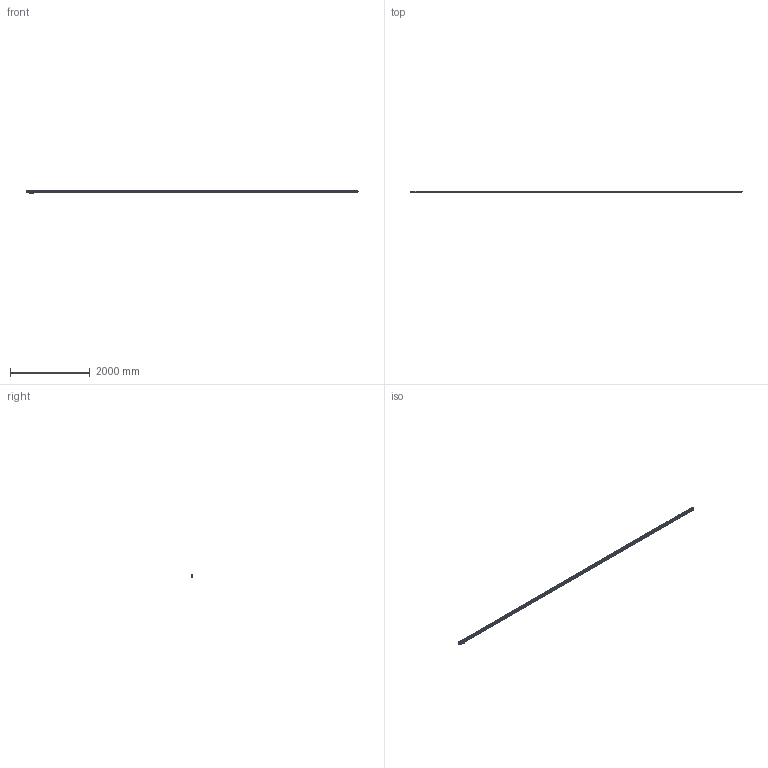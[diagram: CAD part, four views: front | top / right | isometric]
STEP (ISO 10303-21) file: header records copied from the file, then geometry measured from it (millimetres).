
FILE_DESCRIPTION(('Creo Elements/Direct Modeling STEP Export'),'2;1');
FILE_NAME('Li-80.stp','2017-01-11T11:55:37',(''),(''),'Creo Elements/Direct Modeling STEP processor for AP214 (Solid Model)','Creo Elements/Direct Modeling 18.1H 24-Oct-2015 (C) Parametric Technology GmbH','');
FILE_SCHEMA(('AUTOMOTIVE_DESIGN { 1 0 10303 214 1 1 1 1 }'));
Length unit declared in the file: millimetre
Products named in the file (8): CABEZA.1; CABEZA; Li-80_PERFIL; TAPA_DERECHA; TAPA_IZQUIERDA
Assembly tree (4 placements, depth 2):
  CABEZA
    CABEZA.1
  Li-80_PERFIL
    Li-80_PERFIL
  TAPA_DERECHA
    TAPA_DERECHA
  TAPA_IZQUIERDA
    TAPA_IZQUIERDA
Bounding box: 8341.61 x 50 x 86.45 mm (x, y, z)
Volume: 21219114.6 mm3; surface area: 2453022.5 mm2
Topology: 5 solids, 26 shells, 3453 faces, 9671 edges, 6258 vertices
Faces by surface type: cylinder 1423, plane 1276, bspline 367, cone 250, torus 111, sphere 24, extrusion 2
Entity records: 164259 total; most frequent: CARTESIAN_POINT 71602, ORIENTED_EDGE 19292, DIRECTION 14541, EDGE_CURVE 9645, VERTEX_POINT 6256, AXIS2_PLACEMENT_3D 5178, VECTOR 4185, LINE 4183
